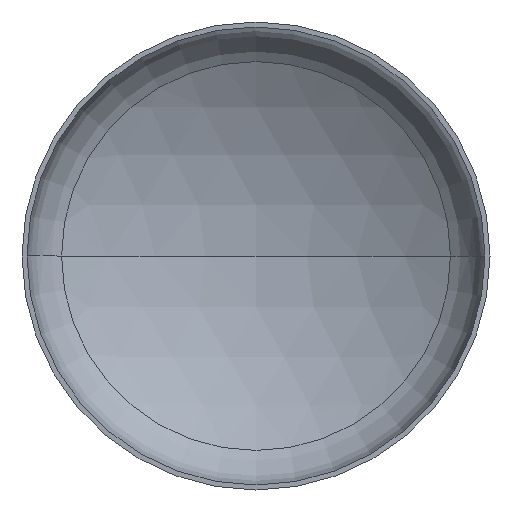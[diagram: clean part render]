
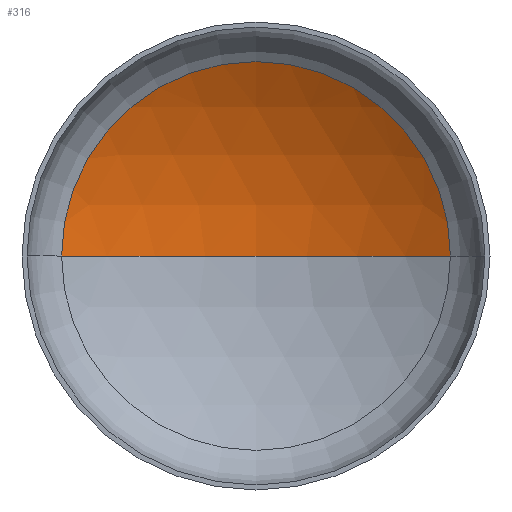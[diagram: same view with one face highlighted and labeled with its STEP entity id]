
A CAD part, front view. The second image highlights one B-rep face of the part: STEP entity #316.
In plain terms, the highlighted spherical face has radius 2240 mm.
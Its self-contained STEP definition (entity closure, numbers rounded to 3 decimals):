
#8 = DIRECTION ( 'NONE',  ( 1., 0., 0. ) ) ;
#10 = AXIS2_PLACEMENT_3D ( 'NONE', #98, #393, #109 ) ;
#11 = DIRECTION ( 'NONE',  ( 0., -1., 0. ) ) ;
#13 = CARTESIAN_POINT ( 'NONE',  ( 0., 457.465, 0. ) ) ;
#15 = EDGE_LOOP ( 'NONE', ( #66, #19, #53 ) ) ;
#19 = ORIENTED_EDGE ( 'NONE', *, *, #138, .T. ) ;
#37 = AXIS2_PLACEMENT_3D ( 'NONE', #197, #199, #209 ) ;
#38 = AXIS2_PLACEMENT_3D ( 'NONE', #181, #328, #355 ) ;
#40 = VERTEX_POINT ( 'NONE', #245 ) ;
#45 = AXIS2_PLACEMENT_3D ( 'NONE', #13, #11, #8 ) ;
#53 = ORIENTED_EDGE ( 'NONE', *, *, #135, .T. ) ;
#66 = ORIENTED_EDGE ( 'NONE', *, *, #147, .F. ) ;
#82 = CIRCLE ( 'NONE', #38, 2240. ) ;
#90 = VERTEX_POINT ( 'NONE', #252 ) ;
#98 = CARTESIAN_POINT ( 'NONE',  ( 0., -1456.771, 0. ) ) ;
#109 = DIRECTION ( 'NONE',  ( -1., 0., 0. ) ) ;
#128 = VERTEX_POINT ( 'NONE', #295 ) ;
#135 = EDGE_CURVE ( 'NONE', #90, #128, #314, .T. ) ;
#138 = EDGE_CURVE ( 'NONE', #40, #90, #82, .T. ) ;
#147 = EDGE_CURVE ( 'NONE', #40, #128, #251, .T. ) ;
#171 = SPHERICAL_SURFACE ( 'NONE', #10, 2240. ) ;
#181 = CARTESIAN_POINT ( 'NONE',  ( 0., -1456.771, 0. ) ) ;
#197 = CARTESIAN_POINT ( 'NONE',  ( 0., -1456.771, 0. ) ) ;
#199 = DIRECTION ( 'NONE',  ( 0., 0., 1. ) ) ;
#209 = DIRECTION ( 'NONE',  ( 1., 0., 0. ) ) ;
#223 = FACE_OUTER_BOUND ( 'NONE', #15, .T. ) ;
#245 = CARTESIAN_POINT ( 'NONE',  ( 0., 783.229, 0. ) ) ;
#251 = CIRCLE ( 'NONE', #37, 2240. ) ;
#252 = CARTESIAN_POINT ( 'NONE',  ( 1163.315, 457.465, 0. ) ) ;
#295 = CARTESIAN_POINT ( 'NONE',  ( -1163.315, 457.465, 0. ) ) ;
#314 = CIRCLE ( 'NONE', #45, 1163.315 ) ;
#316 = ADVANCED_FACE ( 'NONE', ( #223 ), #171, .F. ) ;
#328 = DIRECTION ( 'NONE',  ( 0., 0., -1. ) ) ;
#355 = DIRECTION ( 'NONE',  ( -1., 0., 0. ) ) ;
#393 = DIRECTION ( 'NONE',  ( 0., 0., -1. ) ) ;
